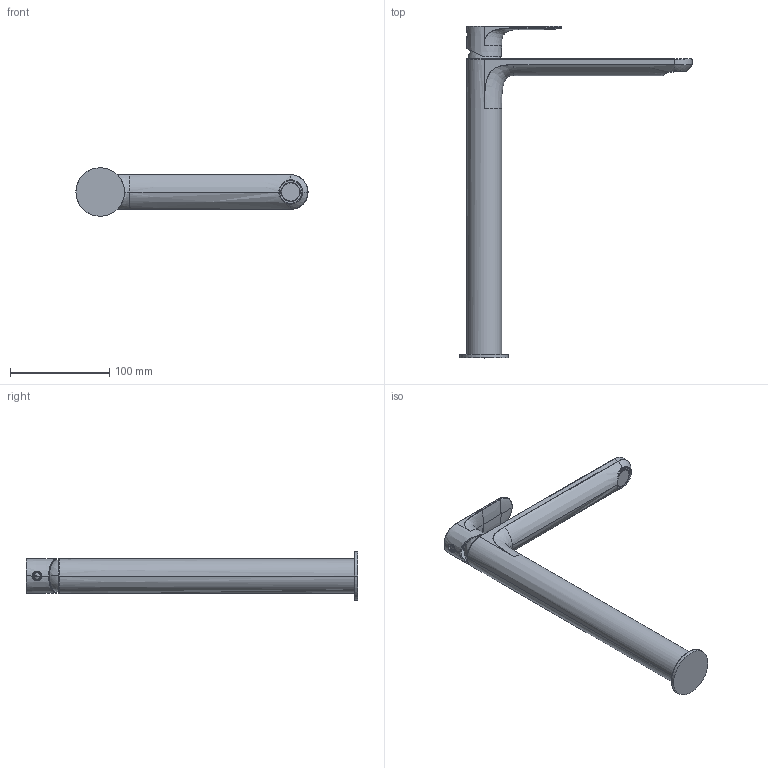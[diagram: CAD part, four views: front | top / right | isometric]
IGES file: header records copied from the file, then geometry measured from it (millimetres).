
Start section:  PTC IGES file: 64065_sw0001.igs
Global section: file name: 64065_sw0001.igs; native system: Creo Parametric by PTC Inc.; preprocessor: 2018100; author: volponeff; organization: Unknown; date: 20200604.140635; units: millimetre
Bounding box: 233.9 x 334.5 x 48.8 mm (x, y, z)
Surface area: 68828.1 mm2 (no closed solid volume)
Topology: 0 solids, 0 shells, 246 faces, 1224 edges, 1220 vertices
Faces by surface type: revolution 127, bspline 113, extrusion 6
